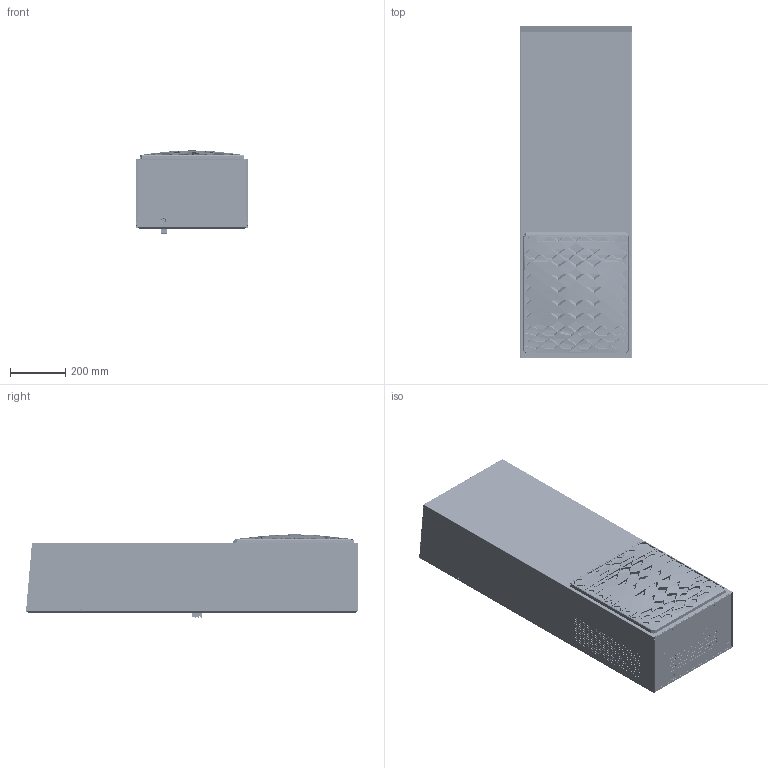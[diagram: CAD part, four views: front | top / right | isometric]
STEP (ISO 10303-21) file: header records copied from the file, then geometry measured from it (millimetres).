
FILE_DESCRIPTION (( 'STEP AP203' ), '1' );
FILE_NAME ('ST0529-CND.STEP', '2025-05-07T14:27:22', ( '' ), ( '' ), 'SwSTEP 2.0', 'SolidWorks 2024', '' );
FILE_SCHEMA (( 'CONFIG_CONTROL_DESIGN' ));
Products named in the file (1): ST0529-CND
Bounding box: 405.21 x 1201.23 x 300.83 mm (x, y, z)
Topology: 0 solids, 111 shells, 13903 faces, 39603 edges, 26123 vertices
Faces by surface type: cylinder 7635, plane 4947, bspline 784, cone 352, torus 167, sphere 18
Entity records: 564034 total; most frequent: CARTESIAN_POINT 184326, ORIENTED_EDGE 79138, DIRECTION 77599, EDGE_CURVE 39591, AXIS2_PLACEMENT_3D 28592, VERTEX_POINT 26124, EDGE_LOOP 20734, VECTOR 20415
